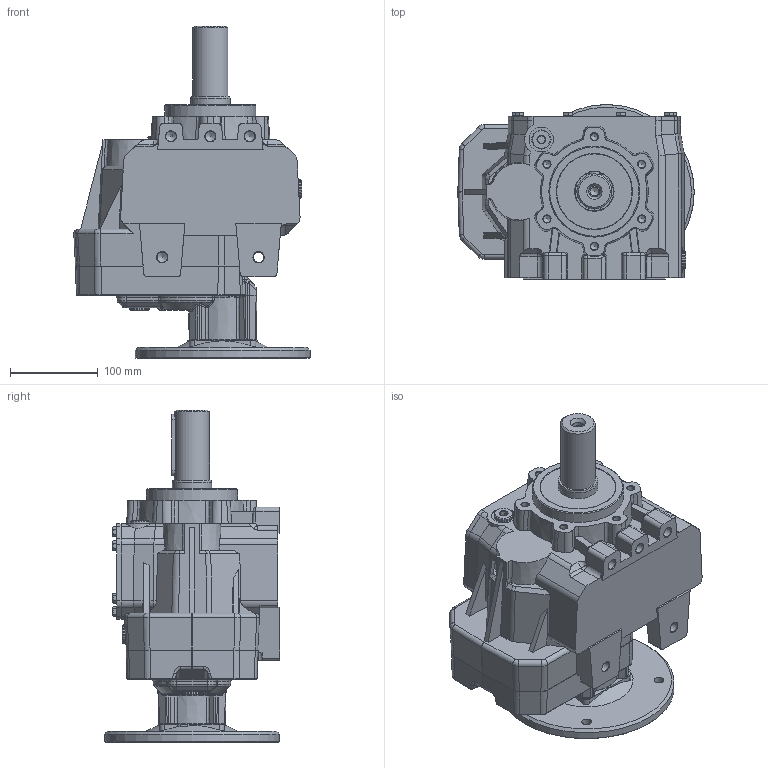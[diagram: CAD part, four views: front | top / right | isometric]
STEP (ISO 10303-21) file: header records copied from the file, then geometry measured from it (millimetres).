
FILE_DESCRIPTION( ( 'Unknown' ), '1' );
FILE_NAME( 'E:/services/configuratordownloads/customers/HYDROMEC/COASSIALI/download/6EF388DAE91D83779B6FC2445CE4B647/STEP/6EF388DAE91D83779B6FC2445CE4B647.3d.stp', 'Unknown', ( 'Unknown' ), ( 'Unknown' ), 'PSStep 10.1', 'Unknown', ' ' );
FILE_SCHEMA( ( 'AUTOMOTIVE_DESIGN { 1 0 10303 214 1 1 1 1 }' ) );
Length unit declared in the file: millimetre
Products named in the file (1): C818800
Bounding box: 269.9 x 199.98 x 379 mm (x, y, z)
Volume: 7314406.1 mm3; surface area: 383578.7 mm2
Topology: 1 solids, 30 shells, 1242 faces, 2973 edges, 1857 vertices
Faces by surface type: plane 582, cylinder 311, cone 148, bspline 137, torus 51, sphere 13
Full cylindrical faces by diameter (mm): 4.917 x2, 6 x8, 6.647 x4, 7 x8, 8 x8, 8.376 x6, 8.5 x4, 8.9 x8, 9.5 x8, 10.106 x2, 11 x4, 11.835 x5, 12.5 x1, 13 x8, 14.3 x4, 14.95 x4, 17 x4, 20 x1, 22 x8, 28 x4, 32.4 x1, 35 x2, 40 x1, 44.999 x1, 47 x2, 104 x1, 130 x1
Entity records: 52082 total; most frequent: CARTESIAN_POINT 15422, DIRECTION 5483, ORIENTED_EDGE 5258, EDGE_CURVE 2629, AXIS2_PLACEMENT_3D 2150, VERTEX_POINT 1748, EDGE_LOOP 1581, FACE_OUTER_BOUND 1386
